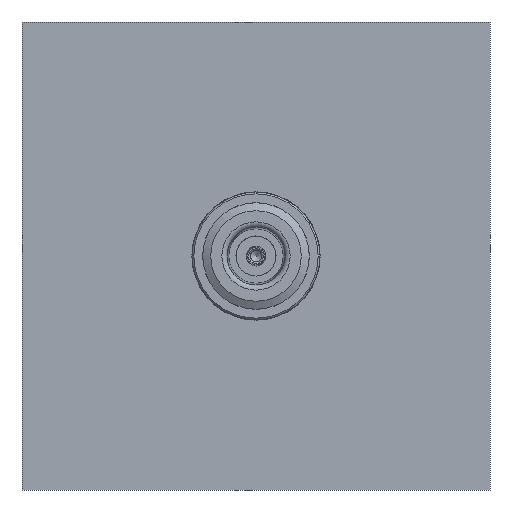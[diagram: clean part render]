
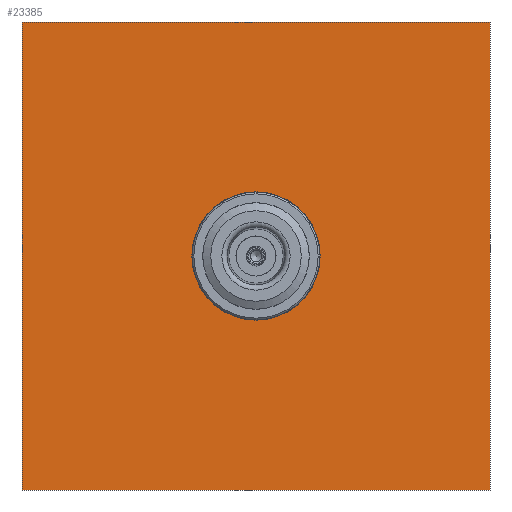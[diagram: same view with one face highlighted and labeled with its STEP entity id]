
A CAD part, front view. The second image highlights one B-rep face of the part: STEP entity #23385.
In plain terms, the highlighted planar face has unit normal (0, -1, 0).
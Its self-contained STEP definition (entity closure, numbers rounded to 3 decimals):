
#985=CIRCLE('',#24430,9.576);
#1819=ORIENTED_EDGE('',*,*,#6431,.T.);
#1820=ORIENTED_EDGE('',*,*,#6428,.T.);
#1821=ORIENTED_EDGE('',*,*,#6425,.T.);
#1822=ORIENTED_EDGE('',*,*,#6423,.T.);
#1823=ORIENTED_EDGE('',*,*,#6420,.T.);
#6420=EDGE_CURVE('',#8793,#8794,#10487,.T.);
#6423=EDGE_CURVE('',#8795,#8793,#10490,.T.);
#6425=EDGE_CURVE('',#8796,#8795,#10492,.T.);
#6428=EDGE_CURVE('',#8794,#8796,#10494,.T.);
#6431=EDGE_CURVE('',#8800,#8800,#985,.T.);
#8793=VERTEX_POINT('',#29989);
#8794=VERTEX_POINT('',#29990);
#8795=VERTEX_POINT('',#29995);
#8796=VERTEX_POINT('',#29999);
#8800=VERTEX_POINT('',#30013);
#10487=LINE('',#29988,#11982);
#10490=LINE('',#29994,#11985);
#10492=LINE('',#29998,#11987);
#10494=LINE('',#30004,#11989);
#11982=VECTOR('',#26058,1000.);
#11985=VECTOR('',#26063,1000.);
#11987=VECTOR('',#26067,1000.);
#11989=VECTOR('',#26073,1000.);
#13447=EDGE_LOOP('',(#1819));
#13448=EDGE_LOOP('',(#1820,#1821,#1822,#1823));
#14637=FACE_BOUND('',#13447,.T.);
#14638=FACE_BOUND('',#13448,.T.);
#15734=PLANE('',#24429);
#23385=ADVANCED_FACE('',(#14637,#14638),#15734,.T.);
#24429=AXIS2_PLACEMENT_3D('',#30011,#26082,#26083);
#24430=AXIS2_PLACEMENT_3D('',#30012,#26084,#26085);
#26058=DIRECTION('',(-1.,0.,0.));
#26063=DIRECTION('',(0.,0.,1.));
#26067=DIRECTION('',(1.,0.,0.));
#26073=DIRECTION('',(0.,0.,-1.));
#26082=DIRECTION('',(0.,-1.,0.));
#26083=DIRECTION('',(0.,0.,-1.));
#26084=DIRECTION('',(0.,1.,0.));
#26085=DIRECTION('',(0.,0.,-1.));
#29988=CARTESIAN_POINT('',(34.925,0.,34.925));
#29989=CARTESIAN_POINT('',(34.925,0.,34.925));
#29990=CARTESIAN_POINT('',(-34.925,0.,34.925));
#29994=CARTESIAN_POINT('',(34.925,0.,-34.925));
#29995=CARTESIAN_POINT('',(34.925,0.,-34.925));
#29998=CARTESIAN_POINT('',(-34.925,0.,-34.925));
#29999=CARTESIAN_POINT('',(-34.925,0.,-34.925));
#30004=CARTESIAN_POINT('',(-34.925,0.,34.925));
#30011=CARTESIAN_POINT('',(0.,0.,0.));
#30012=CARTESIAN_POINT('',(0.,0.,0.));
#30013=CARTESIAN_POINT('',(0.,0.,-9.576));
